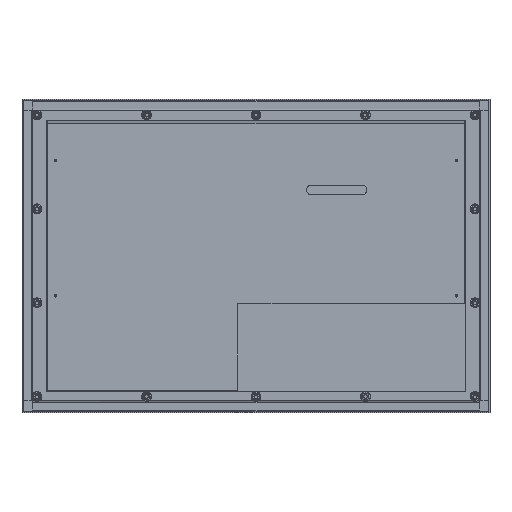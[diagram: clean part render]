
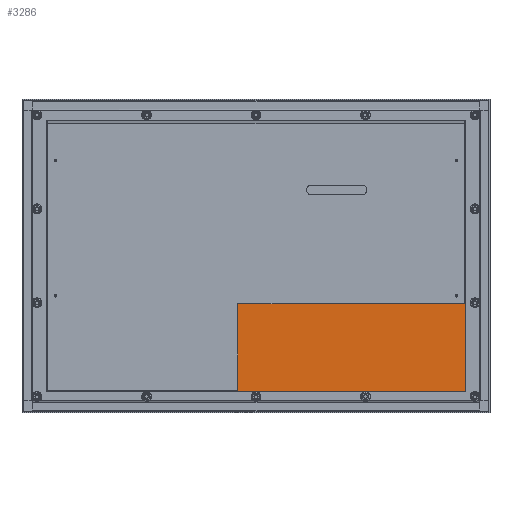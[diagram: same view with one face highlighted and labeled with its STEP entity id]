
A CAD part, top view. The second image highlights one B-rep face of the part: STEP entity #3286.
In plain terms, the highlighted planar face has unit normal (0, 0, 1).
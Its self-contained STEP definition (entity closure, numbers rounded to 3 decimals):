
#136 = LINE ( 'NONE', #6957, #7512 ) ;
#925 = CARTESIAN_POINT ( 'NONE',  ( -252.505, 165.623, 18.72 ) ) ;
#943 = DIRECTION ( 'NONE',  ( 0.707, -0.707, 0. ) ) ;
#1035 = LINE ( 'NONE', #7601, #8639 ) ;
#1143 = VERTEX_POINT ( 'NONE', #3975 ) ;
#1199 = VERTEX_POINT ( 'NONE', #925 ) ;
#1648 = LINE ( 'NONE', #9036, #5350 ) ;
#2438 = PLANE ( 'NONE',  #5227 ) ;
#2527 = ORIENTED_EDGE ( 'NONE', *, *, #6772, .T. ) ;
#2532 = EDGE_CURVE ( 'NONE', #8282, #1199, #9142, .T. ) ;
#2663 = EDGE_CURVE ( 'NONE', #5759, #8257, #1648, .T. ) ;
#2854 = CARTESIAN_POINT ( 'NONE',  ( 258.917, 159.211, 18.72 ) ) ;
#3024 = EDGE_CURVE ( 'NONE', #3086, #8282, #4544, .T. ) ;
#3086 = VERTEX_POINT ( 'NONE', #2854 ) ;
#3114 = ORIENTED_EDGE ( 'NONE', *, *, #3024, .T. ) ;
#3176 = DIRECTION ( 'NONE',  ( -1., 0., 0. ) ) ;
#3286 = ADVANCED_FACE ( 'NONE', ( #6144 ), #2438, .F. ) ;
#3313 = DIRECTION ( 'NONE',  ( 0.707, 0.707, 0. ) ) ;
#3626 = EDGE_CURVE ( 'NONE', #6472, #3086, #9477, .T. ) ;
#3729 = LINE ( 'NONE', #8667, #5677 ) ;
#3751 = CARTESIAN_POINT ( 'NONE',  ( -252.505, 165.623, 18.72 ) ) ;
#3975 = CARTESIAN_POINT ( 'NONE',  ( 252.505, -165.623, 18.72 ) ) ;
#4270 = CARTESIAN_POINT ( 'NONE',  ( 252.505, 165.623, 18.72 ) ) ;
#4458 = ORIENTED_EDGE ( 'NONE', *, *, #2532, .T. ) ;
#4544 = LINE ( 'NONE', #5020, #8209 ) ;
#4582 = VERTEX_POINT ( 'NONE', #7088 ) ;
#4637 = CARTESIAN_POINT ( 'NONE',  ( 258.917, -159.211, 18.72 ) ) ;
#4639 = CARTESIAN_POINT ( 'NONE',  ( 0., 0., 18.72 ) ) ;
#4784 = VECTOR ( 'NONE', #8111, 1000. ) ;
#4873 = LINE ( 'NONE', #9103, #8539 ) ;
#4927 = EDGE_CURVE ( 'NONE', #1199, #4582, #1035, .T. ) ;
#5020 = CARTESIAN_POINT ( 'NONE',  ( 252.505, 165.623, 18.72 ) ) ;
#5128 = DIRECTION ( 'NONE',  ( 0., 1., 0. ) ) ;
#5227 = AXIS2_PLACEMENT_3D ( 'NONE', #4639, #7570, #3176 ) ;
#5350 = VECTOR ( 'NONE', #943, 1000. ) ;
#5677 = VECTOR ( 'NONE', #5740, 1000. ) ;
#5740 = DIRECTION ( 'NONE',  ( 0., -1., 0. ) ) ;
#5753 = DIRECTION ( 'NONE',  ( -0.707, 0.707, 0. ) ) ;
#5759 = VERTEX_POINT ( 'NONE', #8068 ) ;
#6144 = FACE_OUTER_BOUND ( 'NONE', #8691, .T. ) ;
#6166 = DIRECTION ( 'NONE',  ( -0.707, -0.707, 0. ) ) ;
#6428 = ORIENTED_EDGE ( 'NONE', *, *, #6585, .T. ) ;
#6472 = VERTEX_POINT ( 'NONE', #4637 ) ;
#6584 = ORIENTED_EDGE ( 'NONE', *, *, #4927, .T. ) ;
#6585 = EDGE_CURVE ( 'NONE', #1143, #6472, #136, .T. ) ;
#6772 = EDGE_CURVE ( 'NONE', #4582, #5759, #3729, .T. ) ;
#6804 = ORIENTED_EDGE ( 'NONE', *, *, #7574, .T. ) ;
#6957 = CARTESIAN_POINT ( 'NONE',  ( 258.917, -159.211, 18.72 ) ) ;
#7088 = CARTESIAN_POINT ( 'NONE',  ( -258.917, 159.211, 18.72 ) ) ;
#7512 = VECTOR ( 'NONE', #3313, 1000. ) ;
#7570 = DIRECTION ( 'NONE',  ( 0., 0., -1. ) ) ;
#7574 = EDGE_CURVE ( 'NONE', #8257, #1143, #4873, .T. ) ;
#7601 = CARTESIAN_POINT ( 'NONE',  ( -258.917, 159.211, 18.72 ) ) ;
#7617 = DIRECTION ( 'NONE',  ( 1., 0., 0. ) ) ;
#7660 = ORIENTED_EDGE ( 'NONE', *, *, #2663, .T. ) ;
#7734 = VECTOR ( 'NONE', #5128, 1000. ) ;
#8068 = CARTESIAN_POINT ( 'NONE',  ( -258.917, -159.211, 18.72 ) ) ;
#8111 = DIRECTION ( 'NONE',  ( -1., 0., 0. ) ) ;
#8209 = VECTOR ( 'NONE', #5753, 1000. ) ;
#8257 = VERTEX_POINT ( 'NONE', #9349 ) ;
#8263 = ORIENTED_EDGE ( 'NONE', *, *, #3626, .T. ) ;
#8282 = VERTEX_POINT ( 'NONE', #4270 ) ;
#8539 = VECTOR ( 'NONE', #7617, 1000. ) ;
#8639 = VECTOR ( 'NONE', #6166, 1000. ) ;
#8667 = CARTESIAN_POINT ( 'NONE',  ( -258.917, -159.211, 18.72 ) ) ;
#8691 = EDGE_LOOP ( 'NONE', ( #2527, #7660, #6804, #6428, #8263, #3114, #4458, #6584 ) ) ;
#9036 = CARTESIAN_POINT ( 'NONE',  ( -252.505, -165.623, 18.72 ) ) ;
#9103 = CARTESIAN_POINT ( 'NONE',  ( 252.505, -165.623, 18.72 ) ) ;
#9142 = LINE ( 'NONE', #3751, #4784 ) ;
#9349 = CARTESIAN_POINT ( 'NONE',  ( -252.505, -165.623, 18.72 ) ) ;
#9477 = LINE ( 'NONE', #9536, #7734 ) ;
#9536 = CARTESIAN_POINT ( 'NONE',  ( 258.917, 159.211, 18.72 ) ) ;
